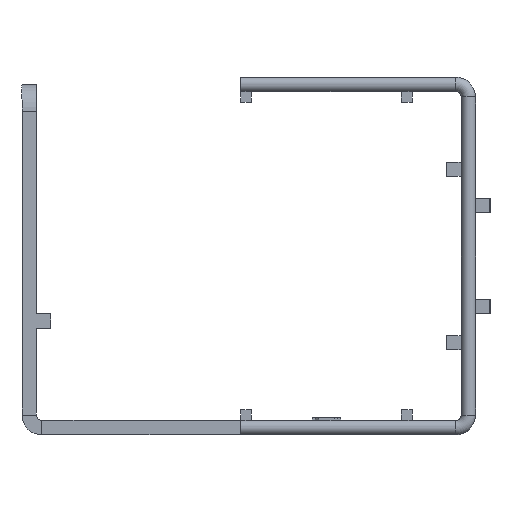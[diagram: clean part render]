
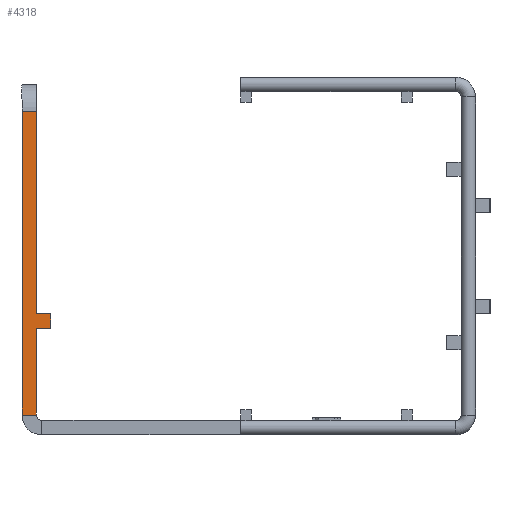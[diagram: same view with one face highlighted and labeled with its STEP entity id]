
A CAD part, left-side view. The second image highlights one B-rep face of the part: STEP entity #4318.
In plain terms, the highlighted planar face has unit normal (-1, 0, 0).
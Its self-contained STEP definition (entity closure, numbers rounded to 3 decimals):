
#154=PLANE('',#4632);
#388=FACE_OUTER_BOUND('',#622,.T.);
#622=EDGE_LOOP('',(#3853,#3854,#3855,#3856,#3857,#3858,#3859,#3860));
#1199=LINE('',#6842,#1749);
#1204=LINE('',#6850,#1754);
#1207=LINE('',#6856,#1757);
#1240=LINE('',#6930,#1790);
#1241=LINE('',#6932,#1791);
#1242=LINE('',#6933,#1792);
#1243=LINE('',#6934,#1793);
#1244=LINE('',#6935,#1794);
#1749=VECTOR('',#5567,1000.);
#1754=VECTOR('',#5574,1000.);
#1757=VECTOR('',#5579,1000.);
#1790=VECTOR('',#5656,1000.);
#1791=VECTOR('',#5657,1000.);
#1792=VECTOR('',#5658,1000.);
#1793=VECTOR('',#5659,1000.);
#1794=VECTOR('',#5660,1000.);
#2191=VERTEX_POINT('',#6839);
#2192=VERTEX_POINT('',#6841);
#2193=VERTEX_POINT('',#6845);
#2196=VERTEX_POINT('',#6854);
#2209=VERTEX_POINT('',#6908);
#2211=VERTEX_POINT('',#6915);
#2215=VERTEX_POINT('',#6929);
#2216=VERTEX_POINT('',#6931);
#2749=EDGE_CURVE('',#2191,#2192,#1199,.T.);
#2754=EDGE_CURVE('',#2192,#2193,#1204,.T.);
#2757=EDGE_CURVE('',#2191,#2196,#1207,.T.);
#2798=EDGE_CURVE('',#2211,#2215,#1240,.T.);
#2799=EDGE_CURVE('',#2216,#2215,#1241,.T.);
#2800=EDGE_CURVE('',#2193,#2216,#1242,.T.);
#2801=EDGE_CURVE('',#2209,#2196,#1243,.T.);
#2802=EDGE_CURVE('',#2209,#2211,#1244,.T.);
#3853=ORIENTED_EDGE('',*,*,#2798,.T.);
#3854=ORIENTED_EDGE('',*,*,#2799,.F.);
#3855=ORIENTED_EDGE('',*,*,#2800,.F.);
#3856=ORIENTED_EDGE('',*,*,#2754,.F.);
#3857=ORIENTED_EDGE('',*,*,#2749,.F.);
#3858=ORIENTED_EDGE('',*,*,#2757,.T.);
#3859=ORIENTED_EDGE('',*,*,#2801,.F.);
#3860=ORIENTED_EDGE('',*,*,#2802,.T.);
#4318=ADVANCED_FACE('',(#388),#154,.T.);
#4632=AXIS2_PLACEMENT_3D('',#6928,#5654,#5655);
#5567=DIRECTION('',(0.,0.,-1.));
#5574=DIRECTION('',(0.,1.,0.));
#5579=DIRECTION('',(0.,1.,0.));
#5654=DIRECTION('center_axis',(-1.,0.,0.));
#5655=DIRECTION('ref_axis',(0.,0.,
1.));
#5656=DIRECTION('',(0.,0.,-1.));
#5657=DIRECTION('',(0.,1.,0.));
#5658=DIRECTION('',(0.,0.,-1.));
#5659=DIRECTION('',(0.,0.,-1.));
#5660=DIRECTION('',(0.,1.,0.));
#6839=CARTESIAN_POINT('',(-378.5,52.5,-16.));
#6841=CARTESIAN_POINT('',(-378.5,52.5,-20.));
#6842=CARTESIAN_POINT('',(-378.5,52.5,-20.));
#6845=CARTESIAN_POINT('',(-378.5,56.5,-20.));
#6850=CARTESIAN_POINT('',(-378.5,52.5,-20.));
#6854=CARTESIAN_POINT('',(-378.5,56.5,-16.));
#6856=CARTESIAN_POINT('',(-378.5,52.5,-16.));
#6908=CARTESIAN_POINT('',(-378.5,56.5,40.));
#6915=CARTESIAN_POINT('',(-378.5,60.5,40.));
#6928=CARTESIAN_POINT('Origin',(-378.5,60.5,40.));
#6929=CARTESIAN_POINT('',(-378.5,60.5,-44.));
#6930=CARTESIAN_POINT('',(-378.5,60.5,40.));
#6931=CARTESIAN_POINT('',(-378.5,56.5,-44.));
#6932=CARTESIAN_POINT('',(-378.5,60.5,-44.));
#6933=CARTESIAN_POINT('',(-378.5,56.5,40.));
#6934=CARTESIAN_POINT('',(-378.5,56.5,40.));
#6935=CARTESIAN_POINT('',(-378.5,60.5,40.));
